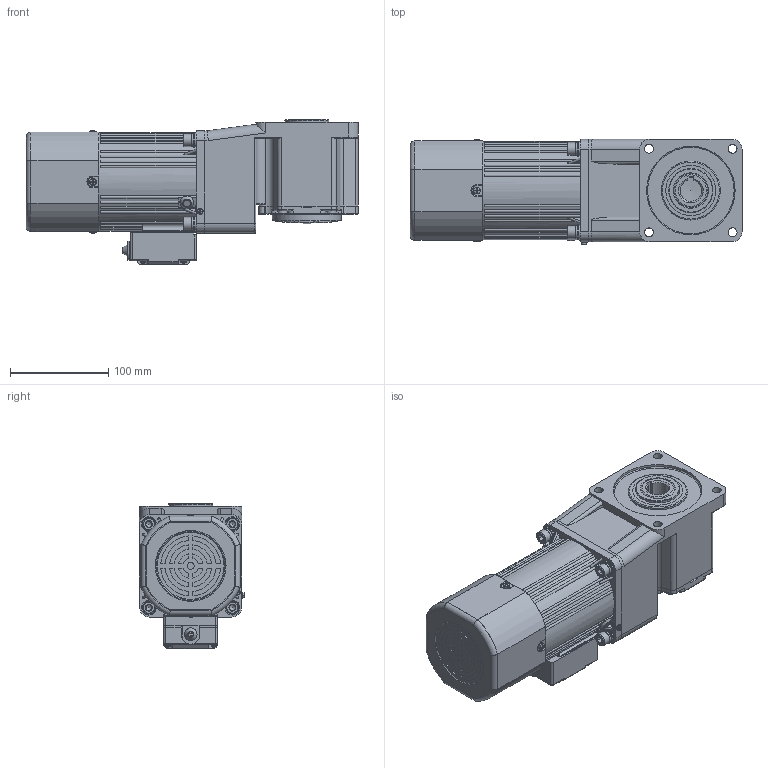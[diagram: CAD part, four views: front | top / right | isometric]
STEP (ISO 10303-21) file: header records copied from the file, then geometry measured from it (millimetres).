
FILE_DESCRIPTION(/* description */ (''),/* implementation_level */ '2;1');
FILE_NAME(/* name */ '100+直角中空-刹车调速风叶-120-140W 新版长款接线盒.stp',/* time_stamp */ '2025-04-07T19:50:54+08:00',/* author */ (''),/* organization */ (''),/* preprocessor_version */ 'ST-DEVELOPER v18.102',/* originating_system */ 'SIEMENS PLM Software NX 2027',/* authorisation */ '');
FILE_SCHEMA (('AP203_CONFIGURATION_CONTROLLED_3D_DESIGN_OF_MECHANICAL_PARTS_AND_ASSEMBLIES_MIM_LF { 1 0 10303 403 2 1 2}'));
Products named in the file (1): 100+直角中空-刹车调速风叶-120-140
W 新版_stp_objects
Bounding box: 337.5 x 106.83 x 147.5 mm (x, y, z)
Volume: 3257278.5 mm3; surface area: 462501.1 mm2
Topology: 25 solids, 25 shells, 2415 faces, 6279 edges, 4028 vertices
Faces by surface type: plane 1098, cylinder 780, bspline 221, torus 154, cone 116, sphere 46
Full cylindrical faces by diameter (mm): 2.2 x2, 2.5 x2, 2.6 x2, 2.7 x1, 2.9 x4, 3 x1, 3.2 x2, 3.3 x6, 3.5 x8, 3.6 x4, 4 x4, 4.2 x1, 4.55 x2, 4.8 x1, 5.1 x2, 5.15 x2, 5.6 x4, 6 x12, 6.8 x12, 7 x3, 7.5 x2, 7.76 x4, 8 x1, 8.4 x4, 9 x13, 9.3 x1, 9.5 x4, 10 x2, 13 x4, 14 x8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
Entity records: 75157 total; most frequent: CARTESIAN_POINT 18452, ORIENTED_EDGE 11592, DIRECTION 11345, EDGE_CURVE 5796, AXIS2_PLACEMENT_3D 4363, VERTEX_POINT 3875, EDGE_LOOP 2970, LINE 2619
